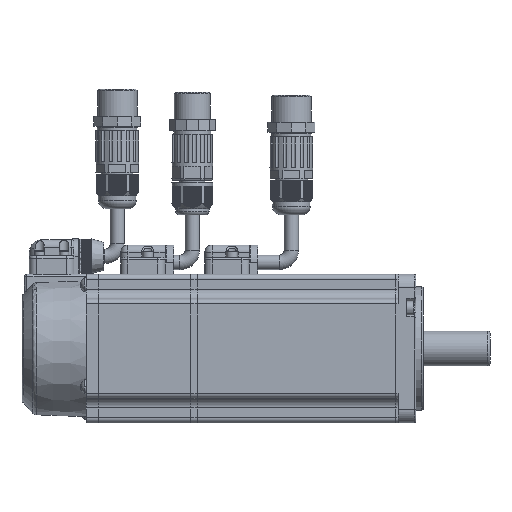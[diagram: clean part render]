
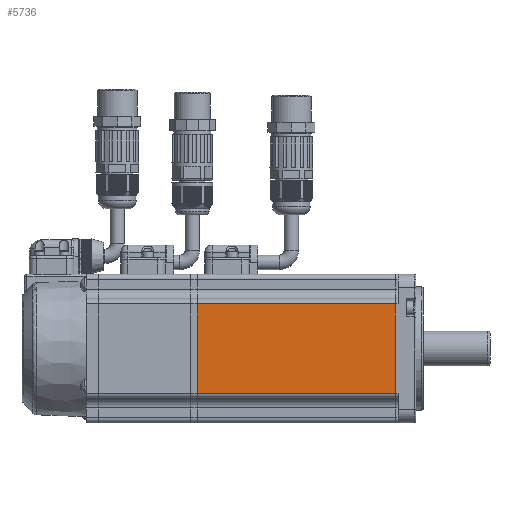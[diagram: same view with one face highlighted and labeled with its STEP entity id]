
A CAD part, left-side view. The second image highlights one B-rep face of the part: STEP entity #5736.
In plain terms, the highlighted planar face has unit normal (-1, 0, 0).
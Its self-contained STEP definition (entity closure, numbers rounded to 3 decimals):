
#5736=ADVANCED_FACE('',(#11209),#8997,.F.);
#8997=PLANE('',#58264);
#11209=FACE_OUTER_BOUND('',#14169,.T.);
#14169=EDGE_LOOP('',(#17822,#17823,#17824,#17825));
#17822=ORIENTED_EDGE('',*,*,#40222,.T.);
#17823=ORIENTED_EDGE('',*,*,#40223,.F.);
#17824=ORIENTED_EDGE('',*,*,#40224,.T.);
#17825=ORIENTED_EDGE('',*,*,#40207,.F.);
#34670=VERTEX_POINT('',#78174);
#34671=VERTEX_POINT('',#78176);
#34684=VERTEX_POINT('',#78205);
#34685=VERTEX_POINT('',#78207);
#40207=EDGE_CURVE('',#34670,#34671,#48631,.T.);
#40222=EDGE_CURVE('',#34670,#34684,#48638,.T.);
#40223=EDGE_CURVE('',#34685,#34684,#48639,.T.);
#40224=EDGE_CURVE('',#34685,#34671,#48640,.T.);
#48631=LINE('',#78175,#53442);
#48638=LINE('',#78204,#53449);
#48639=LINE('',#78206,#53450);
#48640=LINE('',#78208,#53451);
#53442=VECTOR('',#63301,1.);
#53449=VECTOR('',#63326,1.);
#53450=VECTOR('',#63327,1.);
#53451=VECTOR('',#63328,1.);
#58264=AXIS2_PLACEMENT_3D('',#78209,#63329,#63330);
#63301=DIRECTION('',(0.,0.,1.));
#63326=DIRECTION('',(0.,-1.,0.));
#63327=DIRECTION('',(0.,0.,-1.));
#63328=DIRECTION('',(0.,1.,0.));
#63329=DIRECTION('',(1.,0.,0.));
#63330=DIRECTION('',(0.,-1.,0.));
#78174=CARTESIAN_POINT('',(-115.303,175.291,-3.479));
#78175=CARTESIAN_POINT('',(-115.303,175.291,14.521));
#78176=CARTESIAN_POINT('',(-115.303,175.291,32.521));
#78204=CARTESIAN_POINT('',(-115.303,144.19,-3.479));
#78205=CARTESIAN_POINT('',(-115.303,95.19,-3.479));
#78206=CARTESIAN_POINT('',(-115.303,95.19,14.521));
#78207=CARTESIAN_POINT('',(-115.303,95.19,32.521));
#78208=CARTESIAN_POINT('',(-115.303,144.19,32.521));
#78209=CARTESIAN_POINT('',(-115.303,144.19,-15.479));
